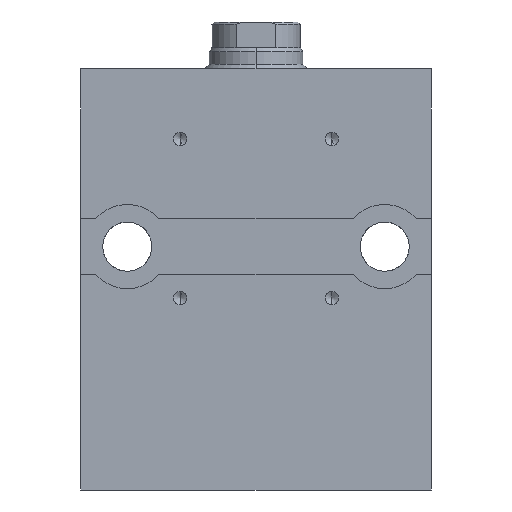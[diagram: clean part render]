
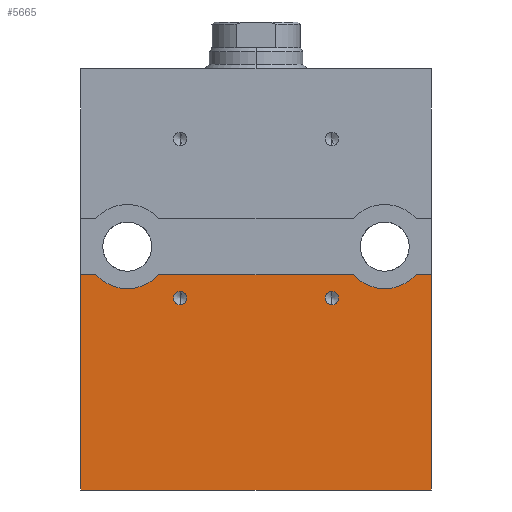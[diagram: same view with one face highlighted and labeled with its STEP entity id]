
A CAD part, left-side view. The second image highlights one B-rep face of the part: STEP entity #5665.
In plain terms, the highlighted planar face has unit normal (-1, 0, 0).
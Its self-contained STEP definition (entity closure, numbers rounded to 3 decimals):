
#144 = ORIENTED_EDGE ( 'NONE', *, *, #2716, .F. ) ;
#221 = CARTESIAN_POINT ( 'NONE',  ( -27.5, 37.5, -54. ) ) ;
#225 = ORIENTED_EDGE ( 'NONE', *, *, #4847, .F. ) ;
#304 = LINE ( 'NONE', #1269, #5672 ) ;
#601 = EDGE_CURVE ( 'NONE', #6812, #3171, #6408, .T. ) ;
#651 = VERTEX_POINT ( 'NONE', #6095 ) ;
#666 = DIRECTION ( 'NONE',  ( -1., 0., 0. ) ) ;
#668 = DIRECTION ( 'NONE',  ( 1., 0., 0. ) ) ;
#697 = LINE ( 'NONE', #2262, #855 ) ;
#826 = DIRECTION ( 'NONE',  ( -1., 0., 0. ) ) ;
#855 = VECTOR ( 'NONE', #4397, 1000. ) ;
#1006 = EDGE_CURVE ( 'NONE', #5103, #5537, #2310, .T. ) ;
#1016 = VECTOR ( 'NONE', #6675, 1000. ) ;
#1028 = AXIS2_PLACEMENT_3D ( 'NONE', #1450, #6767, #6873 ) ;
#1051 = CARTESIAN_POINT ( 'NONE',  ( -27.5, 16.2, -59. ) ) ;
#1148 = AXIS2_PLACEMENT_3D ( 'NONE', #1051, #5403, #2652 ) ;
#1164 = CIRCLE ( 'NONE', #4557, 1.425 ) ;
#1185 = VERTEX_POINT ( 'NONE', #3542 ) ;
#1269 = CARTESIAN_POINT ( 'NONE',  ( -27.5, 37.5, -100. ) ) ;
#1314 = ORIENTED_EDGE ( 'NONE', *, *, #4287, .T. ) ;
#1450 = CARTESIAN_POINT ( 'NONE',  ( -27.5, 27.5, -48. ) ) ;
#1500 = CIRCLE ( 'NONE', #2404, 1.425 ) ;
#1601 = VERTEX_POINT ( 'NONE', #5938 ) ;
#1693 = ORIENTED_EDGE ( 'NONE', *, *, #4855, .T. ) ;
#1702 = CARTESIAN_POINT ( 'NONE',  ( -27.5, 16.2, -59. ) ) ;
#1918 = CARTESIAN_POINT ( 'NONE',  ( -27.5, 20.792, -54. ) ) ;
#1979 = AXIS2_PLACEMENT_3D ( 'NONE', #6260, #4764, #3100 ) ;
#2018 = CARTESIAN_POINT ( 'NONE',  ( -27.5, 37.5, -54. ) ) ;
#2039 = PLANE ( 'NONE',  #1979 ) ;
#2045 = CARTESIAN_POINT ( 'NONE',  ( -27.5, -16.2, -59. ) ) ;
#2262 = CARTESIAN_POINT ( 'NONE',  ( -27.5, -37.5, -100. ) ) ;
#2290 = ORIENTED_EDGE ( 'NONE', *, *, #2315, .F. ) ;
#2310 = LINE ( 'NONE', #221, #1016 ) ;
#2315 = EDGE_CURVE ( 'NONE', #4239, #1185, #1500, .T. ) ;
#2374 = AXIS2_PLACEMENT_3D ( 'NONE', #6703, #826, #2444 ) ;
#2404 = AXIS2_PLACEMENT_3D ( 'NONE', #1702, #666, #2798 ) ;
#2444 = DIRECTION ( 'NONE',  ( 0., 0., 1. ) ) ;
#2569 = EDGE_CURVE ( 'NONE', #5103, #1601, #2624, .T. ) ;
#2624 = CIRCLE ( 'NONE', #1028, 9. ) ;
#2652 = DIRECTION ( 'NONE',  ( 0., 0., 1. ) ) ;
#2653 = CARTESIAN_POINT ( 'NONE',  ( -27.5, 16.2, -60.425 ) ) ;
#2707 = CARTESIAN_POINT ( 'NONE',  ( -27.5, 37.5, -100. ) ) ;
#2716 = EDGE_CURVE ( 'NONE', #1185, #4239, #4198, .T. ) ;
#2725 = DIRECTION ( 'NONE',  ( 0., 0., -1. ) ) ;
#2798 = DIRECTION ( 'NONE',  ( 0., 0., 1. ) ) ;
#2860 = CARTESIAN_POINT ( 'NONE',  ( -27.5, -34.208, -54. ) ) ;
#2878 = VECTOR ( 'NONE', #3820, 1000. ) ;
#2949 = VERTEX_POINT ( 'NONE', #2860 ) ;
#3100 = DIRECTION ( 'NONE',  ( 0., 0., 1. ) ) ;
#3166 = ORIENTED_EDGE ( 'NONE', *, *, #3977, .F. ) ;
#3171 = VERTEX_POINT ( 'NONE', #4870 ) ;
#3255 = CARTESIAN_POINT ( 'NONE',  ( -27.5, -27.5, -48. ) ) ;
#3419 = DIRECTION ( 'NONE',  ( 0., -1., 0. ) ) ;
#3542 = CARTESIAN_POINT ( 'NONE',  ( -27.5, 16.2, -57.575 ) ) ;
#3664 = FACE_BOUND ( 'NONE', #5437, .T. ) ;
#3726 = DIRECTION ( 'NONE',  ( 0., 0., 1. ) ) ;
#3820 = DIRECTION ( 'NONE',  ( 0., -1., 0. ) ) ;
#3969 = ORIENTED_EDGE ( 'NONE', *, *, #4865, .T. ) ;
#3977 = EDGE_CURVE ( 'NONE', #2949, #6852, #6840, .T. ) ;
#4036 = EDGE_CURVE ( 'NONE', #3171, #6812, #1164, .T. ) ;
#4098 = DIRECTION ( 'NONE',  ( 0., -1., 0. ) ) ;
#4134 = CARTESIAN_POINT ( 'NONE',  ( -27.5, -37.5, -54. ) ) ;
#4198 = CIRCLE ( 'NONE', #1148, 1.425 ) ;
#4204 = DIRECTION ( 'NONE',  ( 0., 0., 1. ) ) ;
#4239 = VERTEX_POINT ( 'NONE', #2653 ) ;
#4287 = EDGE_CURVE ( 'NONE', #651, #6778, #304, .T. ) ;
#4397 = DIRECTION ( 'NONE',  ( 0., 0., 1. ) ) ;
#4555 = EDGE_CURVE ( 'NONE', #651, #4690, #6475, .T. ) ;
#4557 = AXIS2_PLACEMENT_3D ( 'NONE', #2045, #4773, #4204 ) ;
#4573 = ORIENTED_EDGE ( 'NONE', *, *, #601, .F. ) ;
#4676 = EDGE_LOOP ( 'NONE', ( #144, #2290 ) ) ;
#4690 = VERTEX_POINT ( 'NONE', #5503 ) ;
#4764 = DIRECTION ( 'NONE',  ( -1., 0., 0. ) ) ;
#4773 = DIRECTION ( 'NONE',  ( -1., 0., 0. ) ) ;
#4789 = AXIS2_PLACEMENT_3D ( 'NONE', #3255, #668, #2725 ) ;
#4847 = EDGE_CURVE ( 'NONE', #4690, #1601, #5520, .T. ) ;
#4855 = EDGE_CURVE ( 'NONE', #6778, #6852, #697, .T. ) ;
#4865 = EDGE_CURVE ( 'NONE', #2949, #5537, #5569, .T. ) ;
#4870 = CARTESIAN_POINT ( 'NONE',  ( -27.5, -16.2, -60.425 ) ) ;
#5103 = VERTEX_POINT ( 'NONE', #1918 ) ;
#5131 = VECTOR ( 'NONE', #3726, 1000. ) ;
#5199 = ORIENTED_EDGE ( 'NONE', *, *, #2569, .T. ) ;
#5227 = VECTOR ( 'NONE', #4098, 1000. ) ;
#5300 = CARTESIAN_POINT ( 'NONE',  ( -27.5, -37.5, -100. ) ) ;
#5403 = DIRECTION ( 'NONE',  ( -1., 0., 0. ) ) ;
#5409 = ORIENTED_EDGE ( 'NONE', *, *, #4036, .F. ) ;
#5437 = EDGE_LOOP ( 'NONE', ( #4573, #5409 ) ) ;
#5503 = CARTESIAN_POINT ( 'NONE',  ( -27.5, 37.5, -54. ) ) ;
#5520 = LINE ( 'NONE', #5552, #2878 ) ;
#5537 = VERTEX_POINT ( 'NONE', #5640 ) ;
#5552 = CARTESIAN_POINT ( 'NONE',  ( -27.5, 37.5, -54. ) ) ;
#5569 = CIRCLE ( 'NONE', #4789, 9. ) ;
#5640 = CARTESIAN_POINT ( 'NONE',  ( -27.5, -20.792, -54. ) ) ;
#5665 = ADVANCED_FACE ( 'NONE', ( #3664, #6870, #6799 ), #2039, .T. ) ;
#5672 = VECTOR ( 'NONE', #3419, 1000. ) ;
#5938 = CARTESIAN_POINT ( 'NONE',  ( -27.5, 34.208, -54. ) ) ;
#6041 = ORIENTED_EDGE ( 'NONE', *, *, #4555, .F. ) ;
#6095 = CARTESIAN_POINT ( 'NONE',  ( -27.5, 37.5, -100. ) ) ;
#6257 = EDGE_LOOP ( 'NONE', ( #3166, #3969, #6897, #5199, #225, #6041, #1314, #1693 ) ) ;
#6260 = CARTESIAN_POINT ( 'NONE',  ( -27.5, 37.5, -100. ) ) ;
#6401 = CARTESIAN_POINT ( 'NONE',  ( -27.5, -16.2, -57.575 ) ) ;
#6408 = CIRCLE ( 'NONE', #2374, 1.425 ) ;
#6475 = LINE ( 'NONE', #2707, #5131 ) ;
#6675 = DIRECTION ( 'NONE',  ( 0., -1., 0. ) ) ;
#6703 = CARTESIAN_POINT ( 'NONE',  ( -27.5, -16.2, -59. ) ) ;
#6767 = DIRECTION ( 'NONE',  ( 1., 0., 0. ) ) ;
#6778 = VERTEX_POINT ( 'NONE', #5300 ) ;
#6799 = FACE_OUTER_BOUND ( 'NONE', #6257, .T. ) ;
#6812 = VERTEX_POINT ( 'NONE', #6401 ) ;
#6840 = LINE ( 'NONE', #2018, #5227 ) ;
#6852 = VERTEX_POINT ( 'NONE', #4134 ) ;
#6870 = FACE_BOUND ( 'NONE', #4676, .T. ) ;
#6873 = DIRECTION ( 'NONE',  ( 0., 0., -1. ) ) ;
#6897 = ORIENTED_EDGE ( 'NONE', *, *, #1006, .F. ) ;
